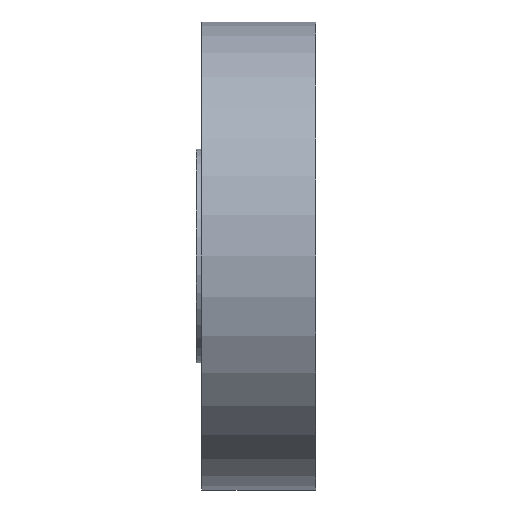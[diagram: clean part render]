
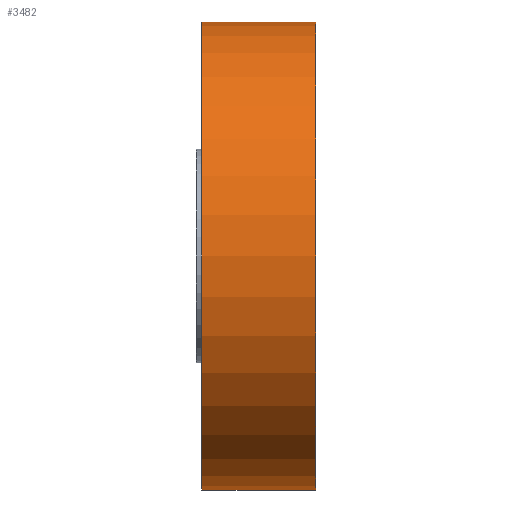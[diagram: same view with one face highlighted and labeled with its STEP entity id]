
A CAD part, left-side view. The second image highlights one B-rep face of the part: STEP entity #3482.
In plain terms, the highlighted cylindrical face has radius 131.5 mm (diameter 263 mm), a partial arc.
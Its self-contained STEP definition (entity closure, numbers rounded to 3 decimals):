
#175 = AXIS2_PLACEMENT_3D ( 'NONE', #8362, #11237, #5524 ) ;
#575 = EDGE_CURVE ( 'NONE', #5906, #6484, #1038, .T. ) ;
#599 = CIRCLE ( 'NONE', #1746, 131.5 ) ;
#657 = CARTESIAN_POINT ( 'NONE',  ( 0., 0., -131.5 ) ) ;
#760 = EDGE_CURVE ( 'NONE', #1164, #8406, #3300, .T. ) ;
#815 = AXIS2_PLACEMENT_3D ( 'NONE', #5937, #1279, #8647 ) ;
#1038 = LINE ( 'NONE', #4705, #7209 ) ;
#1164 = VERTEX_POINT ( 'NONE', #11560 ) ;
#1279 = DIRECTION ( 'NONE',  ( 0., 1., 0. ) ) ;
#1332 = DIRECTION ( 'NONE',  ( 0., -1., 0. ) ) ;
#1536 = CARTESIAN_POINT ( 'NONE',  ( 0., 0., 0. ) ) ;
#1746 = AXIS2_PLACEMENT_3D ( 'NONE', #1536, #8738, #3328 ) ;
#2339 = CARTESIAN_POINT ( 'NONE',  ( 0., 67., 131.5 ) ) ;
#3299 = EDGE_CURVE ( 'NONE', #6484, #8406, #599, .T. ) ;
#3300 = LINE ( 'NONE', #2339, #3968 ) ;
#3328 = DIRECTION ( 'NONE',  ( 0., 0., 1. ) ) ;
#3482 = ADVANCED_FACE ( 'NONE', ( #6670 ), #11179, .T. ) ;
#3968 = VECTOR ( 'NONE', #1332, 1000. ) ;
#4705 = CARTESIAN_POINT ( 'NONE',  ( 0., 67., -131.5 ) ) ;
#5032 = ORIENTED_EDGE ( 'NONE', *, *, #6064, .F. ) ;
#5261 = ORIENTED_EDGE ( 'NONE', *, *, #575, .T. ) ;
#5524 = DIRECTION ( 'NONE',  ( 0., 0., -1. ) ) ;
#5906 = VERTEX_POINT ( 'NONE', #8171 ) ;
#5937 = CARTESIAN_POINT ( 'NONE',  ( 0., 64., 0. ) ) ;
#6064 = EDGE_CURVE ( 'NONE', #5906, #1164, #11272, .T. ) ;
#6484 = VERTEX_POINT ( 'NONE', #657 ) ;
#6670 = FACE_OUTER_BOUND ( 'NONE', #11331, .T. ) ;
#7209 = VECTOR ( 'NONE', #8410, 1000. ) ;
#8171 = CARTESIAN_POINT ( 'NONE',  ( 0., 64., -131.5 ) ) ;
#8362 = CARTESIAN_POINT ( 'NONE',  ( 0., 67., 0. ) ) ;
#8406 = VERTEX_POINT ( 'NONE', #8505 ) ;
#8410 = DIRECTION ( 'NONE',  ( 0., -1., 0. ) ) ;
#8505 = CARTESIAN_POINT ( 'NONE',  ( 0., 0., 131.5 ) ) ;
#8647 = DIRECTION ( 'NONE',  ( 0., 0., 1. ) ) ;
#8738 = DIRECTION ( 'NONE',  ( 0., 1., 0. ) ) ;
#10077 = ORIENTED_EDGE ( 'NONE', *, *, #3299, .T. ) ;
#11179 = CYLINDRICAL_SURFACE ( 'NONE', #175, 131.5 ) ;
#11237 = DIRECTION ( 'NONE',  ( 0., -1., 0. ) ) ;
#11272 = CIRCLE ( 'NONE', #815, 131.5 ) ;
#11331 = EDGE_LOOP ( 'NONE', ( #11571, #5032, #5261, #10077 ) ) ;
#11560 = CARTESIAN_POINT ( 'NONE',  ( 0., 64., 131.5 ) ) ;
#11571 = ORIENTED_EDGE ( 'NONE', *, *, #760, .F. ) ;
